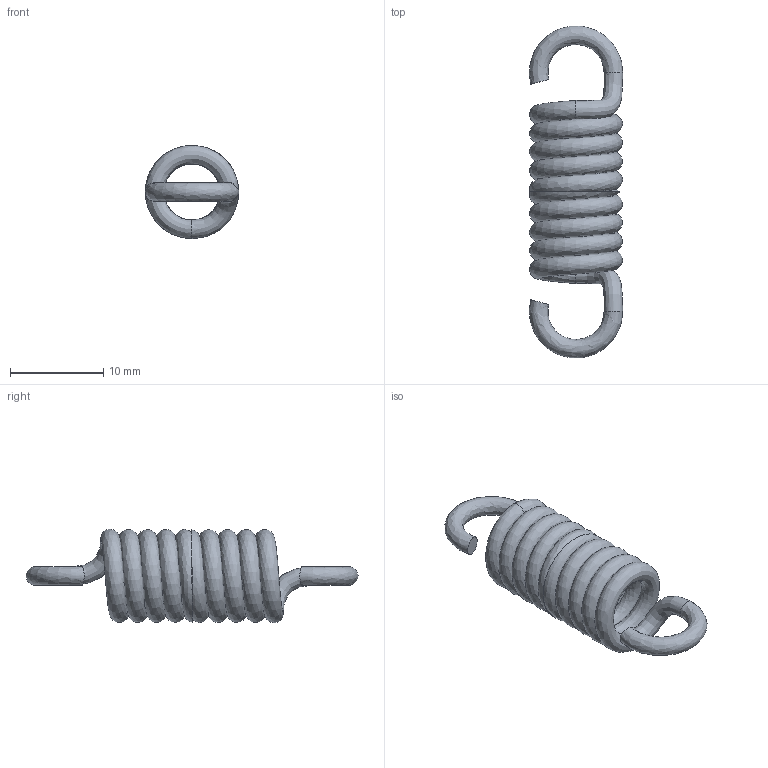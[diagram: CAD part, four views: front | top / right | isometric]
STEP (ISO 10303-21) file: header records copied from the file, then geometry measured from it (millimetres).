
FILE_DESCRIPTION(/* description */ ('183 | 26,49 | 0'),/* implementation_level */ '2;1');
FILE_NAME(/* name */ 'T21600.step',/* time_stamp */ '2026-10-05T10:18:24+02:00',/* author */ ('impex-ready.pl'),/* organization */ ('T21600'),/* preprocessor_version */ 'ST-DEVELOPER v20.1',/* originating_system */ 'Autodesk Inventor 2026',/* authorisation */ 'stal nierdzewna');
FILE_SCHEMA (('AUTOMOTIVE_DESIGN { 1 0 10303 214 3 1 1 }'));
Length unit declared in the file: millimetre
Products named in the file (1): T21600
Bounding box: 10 x 35.57 x 10 mm (x, y, z)
Volume: 834.1 mm3; surface area: 1682.3 mm2
Topology: 1 solids, 1 shells, 10 faces, 32 edges, 20 vertices
Faces by surface type: bspline 6, plane 4
Entity records: 2886 total; most frequent: CARTESIAN_POINT 2598, ORIENTED_EDGE 64, DIRECTION 34, EDGE_CURVE 32, B_SPLINE_CURVE_WITH_KNOTS 20, VERTEX_POINT 20, AXIS2_PLACEMENT_3D 17, CIRCLE 12
